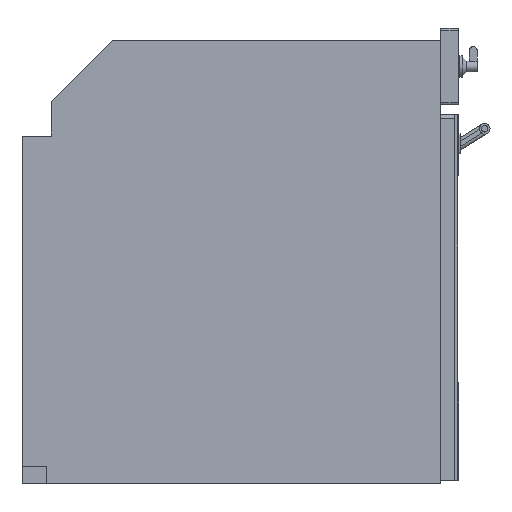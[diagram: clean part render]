
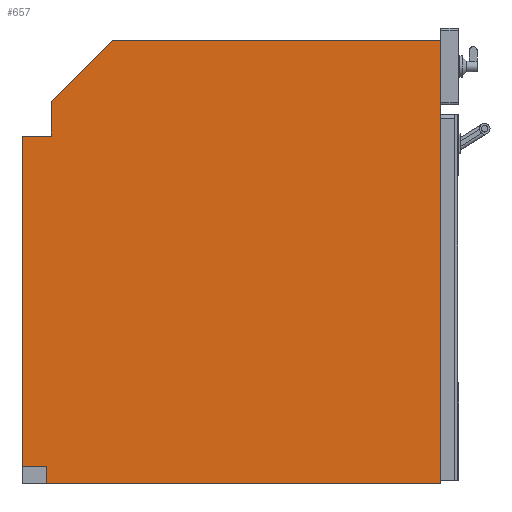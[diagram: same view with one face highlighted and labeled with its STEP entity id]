
A CAD part, front view. The second image highlights one B-rep face of the part: STEP entity #657.
In plain terms, the highlighted planar face has unit normal (0, -1, 0).
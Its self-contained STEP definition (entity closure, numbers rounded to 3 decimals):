
#657=ADVANCED_FACE('',(#1032),#872,.F.);
#872=PLANE('',#3897);
#1032=FACE_OUTER_BOUND('',#1229,.T.);
#1229=EDGE_LOOP('',(#1727,#1728,#1729,#1730,#1731,#1732,#1733,#1734,#1735));
#1727=ORIENTED_EDGE('',*,*,#2830,.F.);
#1728=ORIENTED_EDGE('',*,*,#2824,.F.);
#1729=ORIENTED_EDGE('',*,*,#2853,.F.);
#1730=ORIENTED_EDGE('',*,*,#2848,.F.);
#1731=ORIENTED_EDGE('',*,*,#2845,.F.);
#1732=ORIENTED_EDGE('',*,*,#2842,.F.);
#1733=ORIENTED_EDGE('',*,*,#2839,.F.);
#1734=ORIENTED_EDGE('',*,*,#2836,.F.);
#1735=ORIENTED_EDGE('',*,*,#2833,.F.);
#2453=VERTEX_POINT('',#5420);
#2456=VERTEX_POINT('',#5425);
#2462=VERTEX_POINT('',#5439);
#2464=VERTEX_POINT('',#5445);
#2466=VERTEX_POINT('',#5451);
#2468=VERTEX_POINT('',#5457);
#2470=VERTEX_POINT('',#5463);
#2472=VERTEX_POINT('',#5469);
#2473=VERTEX_POINT('',#5474);
#2824=EDGE_CURVE('',#2456,#2453,#3267,.T.);
#2830=EDGE_CURVE('',#2453,#2462,#3273,.T.);
#2833=EDGE_CURVE('',#2462,#2464,#3276,.T.);
#2836=EDGE_CURVE('',#2464,#2466,#3279,.T.);
#2839=EDGE_CURVE('',#2466,#2468,#3282,.T.);
#2842=EDGE_CURVE('',#2468,#2470,#3285,.T.);
#2845=EDGE_CURVE('',#2470,#2472,#3288,.T.);
#2848=EDGE_CURVE('',#2472,#2473,#3291,.T.);
#2853=EDGE_CURVE('',#2473,#2456,#3296,.T.);
#3267=LINE('',#5426,#3581);
#3273=LINE('',#5438,#3587);
#3276=LINE('',#5444,#3590);
#3279=LINE('',#5450,#3593);
#3282=LINE('',#5456,#3596);
#3285=LINE('',#5462,#3599);
#3288=LINE('',#5468,#3602);
#3291=LINE('',#5473,#3605);
#3296=LINE('',#5481,#3610);
#3581=VECTOR('',#4417,1.);
#3587=VECTOR('',#4425,1.);
#3590=VECTOR('',#4430,1.);
#3593=VECTOR('',#4435,1.);
#3596=VECTOR('',#4440,1.);
#3599=VECTOR('',#4445,1.);
#3602=VECTOR('',#4450,1.);
#3605=VECTOR('',#4455,1.);
#3610=VECTOR('',#4462,1.);
#3897=AXIS2_PLACEMENT_3D('',#5486,#4469,#4470);
#4417=DIRECTION('',(-1.,0.,0.));
#4425=DIRECTION('',(0.,0.,1.));
#4430=DIRECTION('',(1.,0.,0.));
#4435=DIRECTION('',(0.,0.,1.));
#4440=DIRECTION('',(0.707,0.,0.707));
#4445=DIRECTION('',(1.,0.,0.));
#4450=DIRECTION('',(0.,0.,-1.));
#4455=DIRECTION('',(-1.,0.,0.));
#4462=DIRECTION('',(0.,0.,1.));
#4469=DIRECTION('',(0.,1.,0.));
#4470=DIRECTION('',(0.,0.,1.));
#5420=CARTESIAN_POINT('',(-274.,-1.,23.));
#5425=CARTESIAN_POINT('',(-242.,-1.,23.));
#5426=CARTESIAN_POINT('',(-242.,-1.,23.));
#5438=CARTESIAN_POINT('',(-274.,-1.,23.));
#5439=CARTESIAN_POINT('',(-274.,-1.,455.));
#5444=CARTESIAN_POINT('',(-274.,-1.,455.));
#5445=CARTESIAN_POINT('',(-236.,-1.,455.));
#5450=CARTESIAN_POINT('',(-236.,-1.,455.));
#5451=CARTESIAN_POINT('',(-236.,-1.,500.));
#5456=CARTESIAN_POINT('',(-236.,-1.,500.));
#5457=CARTESIAN_POINT('',(-156.,-1.,580.));
#5462=CARTESIAN_POINT('',(-156.,-1.,580.));
#5463=CARTESIAN_POINT('',(274.,-1.,580.));
#5468=CARTESIAN_POINT('',(274.,-1.,580.));
#5469=CARTESIAN_POINT('',(274.,-1.,0.));
#5473=CARTESIAN_POINT('',(274.,-1.,0.));
#5474=CARTESIAN_POINT('',(-242.,-1.,0.));
#5481=CARTESIAN_POINT('',(-242.,-1.,0.));
#5486=CARTESIAN_POINT('',(-274.,-1.,0.));
